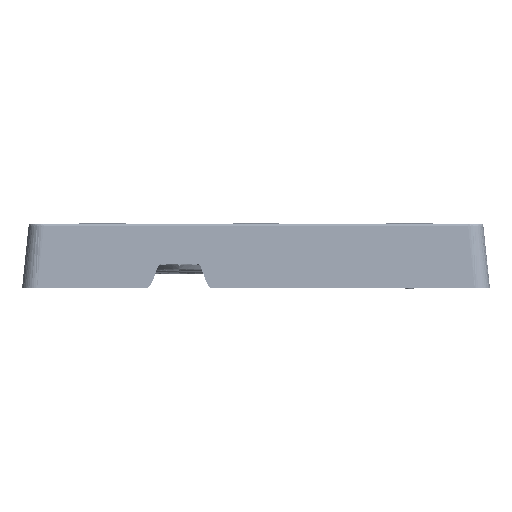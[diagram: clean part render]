
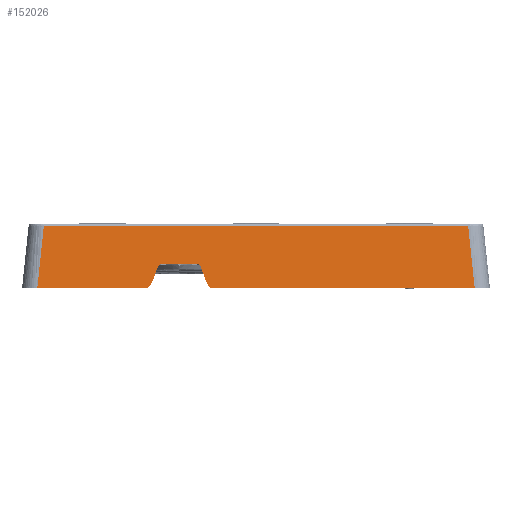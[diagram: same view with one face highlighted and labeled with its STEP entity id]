
A CAD part, left-side view. The second image highlights one B-rep face of the part: STEP entity #152026.
In plain terms, the highlighted planar face has unit normal (-0.995, 0, 0.104).
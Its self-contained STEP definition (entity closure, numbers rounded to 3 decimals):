
#57153=CARTESIAN_POINT('Vertex',(-143.,5.678,-1.57)) ;
#57157=CARTESIAN_POINT('Control Point',(-143.,5.678,-1.57)) ;
#57158=CARTESIAN_POINT('Control Point',(-143.,5.827,-1.57)) ;
#57159=CARTESIAN_POINT('Control Point',(-142.993,5.975,-1.499)) ;
#57160=CARTESIAN_POINT('Control Point',(-142.98,6.068,-1.384)) ;
#57161=CARTESIAN_POINT('Vertex',(-142.98,6.068,-1.384)) ;
#57201=CARTESIAN_POINT('Control Point',(-142.98,6.068,-1.384)) ;
#57202=CARTESIAN_POINT('Control Point',(-142.953,6.274,-1.127)) ;
#57203=CARTESIAN_POINT('Control Point',(-142.923,6.438,-0.837)) ;
#57204=CARTESIAN_POINT('Control Point',(-142.89,6.55,-0.528)) ;
#57205=CARTESIAN_POINT('Vertex',(-142.89,6.55,-0.528)) ;
#57397=CARTESIAN_POINT('Vertex',(-142.694,12.771,1.337)) ;
#57400=CARTESIAN_POINT('Line Origine',(-142.792,13.11,0.404)) ;
#57404=CARTESIAN_POINT('Vertex',(-142.89,13.45,-0.528)) ;
#66223=CARTESIAN_POINT('Vertex',(-142.694,7.229,1.337)) ;
#66227=CARTESIAN_POINT('Control Point',(-142.667,7.605,1.6)) ;
#66228=CARTESIAN_POINT('Control Point',(-142.667,7.495,1.6)) ;
#66229=CARTESIAN_POINT('Control Point',(-142.673,7.37,1.542)) ;
#66230=CARTESIAN_POINT('Control Point',(-142.684,7.266,1.44)) ;
#66231=CARTESIAN_POINT('Control Point',(-142.694,7.229,1.337)) ;
#66232=CARTESIAN_POINT('Vertex',(-142.667,7.605,1.6)) ;
#66266=CARTESIAN_POINT('Control Point',(-142.14,27.651,6.61)) ;
#66267=CARTESIAN_POINT('Control Point',(-143.,28.511,-1.57)) ;
#66268=CARTESIAN_POINT('Vertex',(-142.14,27.651,6.61)) ;
#66270=CARTESIAN_POINT('Vertex',(-143.,28.511,-1.57)) ;
#66360=CARTESIAN_POINT('Vertex',(-142.14,-27.651,6.61)) ;
#66384=CARTESIAN_POINT('Control Point',(-142.14,-27.651,6.61)) ;
#66385=CARTESIAN_POINT('Control Point',(-142.14,-16.591,6.61)) ;
#66386=CARTESIAN_POINT('Control Point',(-142.14,-5.53,6.61)) ;
#66387=CARTESIAN_POINT('Control Point',(-142.14,5.53,6.61)) ;
#66388=CARTESIAN_POINT('Control Point',(-142.14,16.591,6.61)) ;
#66389=CARTESIAN_POINT('Control Point',(-142.14,27.651,6.61)) ;
#119904=CARTESIAN_POINT('Line Origine',(-142.667,10.,1.6)) ;
#119908=CARTESIAN_POINT('Vertex',(-142.667,12.395,1.6)) ;
#121477=CARTESIAN_POINT('Control Point',(-142.667,12.395,1.6)) ;
#121478=CARTESIAN_POINT('Control Point',(-142.667,12.505,1.6)) ;
#121479=CARTESIAN_POINT('Control Point',(-142.673,12.635,1.539)) ;
#121480=CARTESIAN_POINT('Control Point',(-142.684,12.734,1.44)) ;
#121481=CARTESIAN_POINT('Control Point',(-142.694,12.771,1.337)) ;
#125808=CARTESIAN_POINT('Line Origine',(-142.792,6.89,0.404)) ;
#126208=CARTESIAN_POINT('Control Point',(-142.98,13.932,-1.384)) ;
#126209=CARTESIAN_POINT('Control Point',(-142.953,13.726,-1.127)) ;
#126210=CARTESIAN_POINT('Control Point',(-142.923,13.562,-0.837)) ;
#126211=CARTESIAN_POINT('Control Point',(-142.89,13.45,-0.528)) ;
#126212=CARTESIAN_POINT('Vertex',(-142.98,13.932,-1.384)) ;
#134188=CARTESIAN_POINT('Vertex',(-143.,-28.511,-1.57)) ;
#134191=CARTESIAN_POINT('Line Origine',(-143.,-12.532,-1.57)) ;
#134195=CARTESIAN_POINT('Vertex',(-143.,3.446,-1.57)) ;
#134198=CARTESIAN_POINT('Line Origine',(-143.,4.462,-1.57)) ;
#134202=CARTESIAN_POINT('Vertex',(-143.,5.478,-1.57)) ;
#134205=CARTESIAN_POINT('Line Origine',(-143.,5.578,-1.57)) ;
#134240=CARTESIAN_POINT('Control Point',(-142.14,-27.651,6.61)) ;
#134241=CARTESIAN_POINT('Control Point',(-143.,-28.511,-1.57)) ;
#151948=CARTESIAN_POINT('Vertex',(-143.,14.322,-1.57)) ;
#151951=CARTESIAN_POINT('Line Origine',(-143.,21.416,-1.57)) ;
#151989=CARTESIAN_POINT('Control Point',(-143.,14.322,-1.57)) ;
#151990=CARTESIAN_POINT('Control Point',(-143.,14.173,-1.57)) ;
#151991=CARTESIAN_POINT('Control Point',(-142.993,14.025,-1.499)) ;
#151992=CARTESIAN_POINT('Control Point',(-142.98,13.932,-1.384)) ;
#152003=CARTESIAN_POINT('Axis2P3D Location',(-143.,0.,-1.57)) ;
#57401=DIRECTION('Vector Direction',(-0.098,0.34,-0.935)) ;
#119905=DIRECTION('Vector Direction',(0.,1.,0.)) ;
#125809=DIRECTION('Vector Direction',(-0.098,-0.34,-0.935)) ;
#134192=DIRECTION('Vector Direction',(0.,-1.,0.)) ;
#134199=DIRECTION('Vector Direction',(0.,-1.,0.)) ;
#134206=DIRECTION('Vector Direction',(0.,-1.,0.)) ;
#151952=DIRECTION('Vector Direction',(0.,-1.,0.)) ;
#152004=DIRECTION('Axis2P3D Direction',(0.995,0.,-0.105)) ;
#152005=DIRECTION('Axis2P3D XDirection',(0.,-1.,0.)) ;
#152006=AXIS2_PLACEMENT_3D('Plane Axis2P3D',#152003,#152004,#152005) ;
#152009=ORIENTED_EDGE('',*,*,#134204,.T.) ;
#152010=ORIENTED_EDGE('',*,*,#134197,.F.) ;
#152011=ORIENTED_EDGE('',*,*,#134242,.T.) ;
#152012=ORIENTED_EDGE('',*,*,#66390,.T.) ;
#152013=ORIENTED_EDGE('',*,*,#66272,.T.) ;
#152014=ORIENTED_EDGE('',*,*,#151955,.T.) ;
#152015=ORIENTED_EDGE('',*,*,#151993,.T.) ;
#152016=ORIENTED_EDGE('',*,*,#126214,.T.) ;
#152017=ORIENTED_EDGE('',*,*,#57406,.F.) ;
#152018=ORIENTED_EDGE('',*,*,#121482,.F.) ;
#152019=ORIENTED_EDGE('',*,*,#119910,.F.) ;
#152020=ORIENTED_EDGE('',*,*,#66234,.T.) ;
#152021=ORIENTED_EDGE('',*,*,#125812,.T.) ;
#152022=ORIENTED_EDGE('',*,*,#57207,.F.) ;
#152023=ORIENTED_EDGE('',*,*,#57163,.F.) ;
#152024=ORIENTED_EDGE('',*,*,#134209,.T.) ;
#57402=VECTOR('Line Direction',#57401,1.) ;
#119906=VECTOR('Line Direction',#119905,1.) ;
#125810=VECTOR('Line Direction',#125809,1.) ;
#134193=VECTOR('Line Direction',#134192,1.) ;
#134200=VECTOR('Line Direction',#134199,1.) ;
#134207=VECTOR('Line Direction',#134206,1.) ;
#151953=VECTOR('Line Direction',#151952,1.) ;
#152026=ADVANCED_FACE('20130829_F13853_FLORENCE-Z_MechanicalModel',(#152025),#152007,.F.) ;
#57156=B_SPLINE_CURVE_WITH_KNOTS('',3,(#57157,#57158,#57159,#57160),.UNSPECIFIED.,.F.,.U.,(4,4),(0.,0.633),.UNSPECIFIED.) ;
#57200=B_SPLINE_CURVE_WITH_KNOTS('',3,(#57201,#57202,#57203,#57204),.UNSPECIFIED.,.F.,.U.,(4,4),(0.,1.403),.UNSPECIFIED.) ;
#66226=B_SPLINE_CURVE_WITH_KNOTS('',4,(#66227,#66228,#66229,#66230,#66231),.UNSPECIFIED.,.F.,.U.,(5,5),(0.,0.701),.UNSPECIFIED.) ;
#66265=B_SPLINE_CURVE_WITH_KNOTS('',1,(#66266,#66267),.UNSPECIFIED.,.F.,.U.,(2,2),(2.8,11.07),.UNSPECIFIED.) ;
#121476=B_SPLINE_CURVE_WITH_KNOTS('',4,(#121477,#121478,#121479,#121480,#121481),.UNSPECIFIED.,.F.,.U.,(5,5),(0.,0.702),.UNSPECIFIED.) ;
#126207=B_SPLINE_CURVE_WITH_KNOTS('',3,(#126208,#126209,#126210,#126211),.UNSPECIFIED.,.F.,.U.,(4,4),(0.,1.403),.UNSPECIFIED.) ;
#134239=B_SPLINE_CURVE_WITH_KNOTS('',1,(#134240,#134241),.UNSPECIFIED.,.F.,.U.,(2,2),(2.8,11.07),.UNSPECIFIED.) ;
#151988=B_SPLINE_CURVE_WITH_KNOTS('',3,(#151989,#151990,#151991,#151992),.UNSPECIFIED.,.F.,.U.,(4,4),(0.,0.639),.UNSPECIFIED.) ;
#57163=EDGE_CURVE('',#57154,#57162,#57156,.T.) ;
#57207=EDGE_CURVE('',#57162,#57206,#57200,.T.) ;
#57406=EDGE_CURVE('',#57398,#57405,#57403,.T.) ;
#66234=EDGE_CURVE('',#66233,#66224,#66226,.T.) ;
#66272=EDGE_CURVE('',#66269,#66271,#66265,.T.) ;
#66390=EDGE_CURVE('',#66361,#66269,#66383,.T.) ;
#119910=EDGE_CURVE('',#66233,#119909,#119907,.T.) ;
#121482=EDGE_CURVE('',#119909,#57398,#121476,.T.) ;
#125812=EDGE_CURVE('',#66224,#57206,#125811,.T.) ;
#126214=EDGE_CURVE('',#126213,#57405,#126207,.T.) ;
#134197=EDGE_CURVE('',#134189,#134196,#134194,.F.) ;
#134204=EDGE_CURVE('',#134203,#134196,#134201,.T.) ;
#134209=EDGE_CURVE('',#57154,#134203,#134208,.T.) ;
#134242=EDGE_CURVE('',#134189,#66361,#134239,.F.) ;
#151955=EDGE_CURVE('',#66271,#151949,#151954,.T.) ;
#151993=EDGE_CURVE('',#151949,#126213,#151988,.T.) ;
#152008=EDGE_LOOP('',(#152009,#152010,#152011,#152012,#152013,#152014,#152015,#152016,#152017,#152018,#152019,#152020,#152021,#152022,#152023,#152024)) ;
#152025=FACE_OUTER_BOUND('',#152008,.T.) ;
#57403=LINE('Line',#57400,#57402) ;
#119907=LINE('Line',#119904,#119906) ;
#125811=LINE('Line',#125808,#125810) ;
#134194=LINE('Line',#134191,#134193) ;
#134201=LINE('Line',#134198,#134200) ;
#134208=LINE('Line',#134205,#134207) ;
#151954=LINE('Line',#151951,#151953) ;
#152007=PLANE('',#152006) ;
#57154=VERTEX_POINT('',#57153) ;
#57162=VERTEX_POINT('',#57161) ;
#57206=VERTEX_POINT('',#57205) ;
#57398=VERTEX_POINT('',#57397) ;
#57405=VERTEX_POINT('',#57404) ;
#66224=VERTEX_POINT('',#66223) ;
#66233=VERTEX_POINT('',#66232) ;
#66269=VERTEX_POINT('',#66268) ;
#66271=VERTEX_POINT('',#66270) ;
#66361=VERTEX_POINT('',#66360) ;
#119909=VERTEX_POINT('',#119908) ;
#126213=VERTEX_POINT('',#126212) ;
#134189=VERTEX_POINT('',#134188) ;
#134196=VERTEX_POINT('',#134195) ;
#134203=VERTEX_POINT('',#134202) ;
#151949=VERTEX_POINT('',#151948) ;
#66383=(BOUNDED_CURVE()B_SPLINE_CURVE(5,(#66384,#66385,#66386,#66387,#66388,#66389),.UNSPECIFIED.,.F.,.U.)B_SPLINE_CURVE_WITH_KNOTS((6,6),(13.881,69.184),.UNSPECIFIED.)CURVE()GEOMETRIC_REPRESENTATION_ITEM()RATIONAL_B_SPLINE_CURVE((1.,1.,1.,1.,1.,1.))REPRESENTATION_ITEM('')) ;
